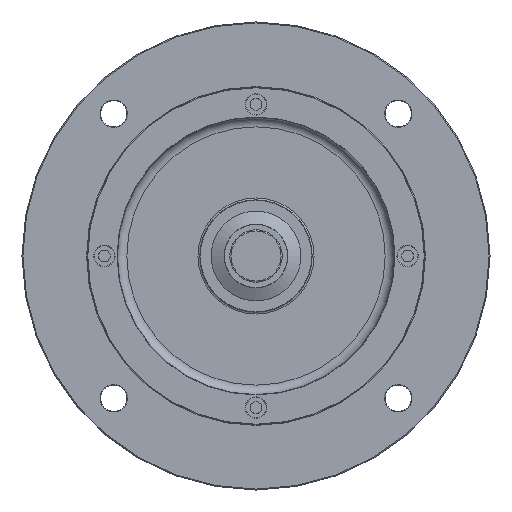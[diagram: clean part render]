
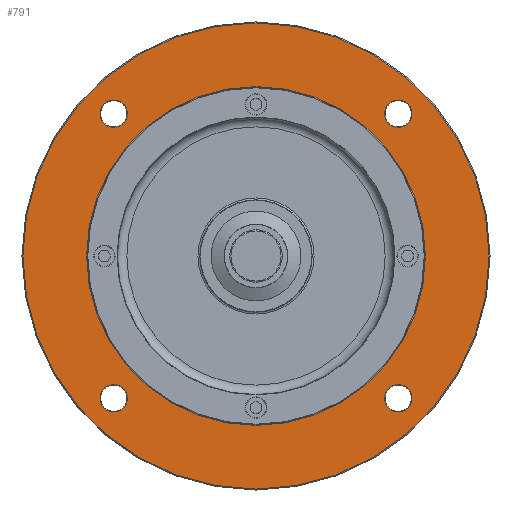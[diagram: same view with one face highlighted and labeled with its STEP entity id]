
A CAD part, front view. The second image highlights one B-rep face of the part: STEP entity #791.
In plain terms, the highlighted planar face has unit normal (0, -1, 0).
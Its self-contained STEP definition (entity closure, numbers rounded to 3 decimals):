
#791=ADVANCED_FACE('',(#1367,#1368,#1369,#1370,#1371,#1167),#1088,.T.);
#1088=PLANE('',#4407);
#1167=FACE_OUTER_BOUND('',#1710,.T.);
#1367=FACE_BOUND('',#1705,.T.);
#1368=FACE_BOUND('',#1706,.T.);
#1369=FACE_BOUND('',#1707,.T.);
#1370=FACE_BOUND('',#1708,.T.);
#1371=FACE_BOUND('',#1709,.T.);
#1705=EDGE_LOOP('',(#2238));
#1706=EDGE_LOOP('',(#2239));
#1707=EDGE_LOOP('',(#2240));
#1708=EDGE_LOOP('',(#2241));
#1709=EDGE_LOOP('',(#2242));
#1710=EDGE_LOOP('',(#2243));
#2238=ORIENTED_EDGE('',*,*,#3570,.T.);
#2239=ORIENTED_EDGE('',*,*,#3571,.T.);
#2240=ORIENTED_EDGE('',*,*,#3572,.T.);
#2241=ORIENTED_EDGE('',*,*,#3573,.T.);
#2242=ORIENTED_EDGE('',*,*,#3574,.T.);
#2243=ORIENTED_EDGE('',*,*,#3575,.T.);
#3184=VERTEX_POINT('',#6520);
#3185=VERTEX_POINT('',#6522);
#3186=VERTEX_POINT('',#6524);
#3187=VERTEX_POINT('',#6526);
#3188=VERTEX_POINT('',#6528);
#3189=VERTEX_POINT('',#6530);
#3570=EDGE_CURVE('',#3184,#3184,#4043,.T.);
#3571=EDGE_CURVE('',#3185,#3185,#4044,.T.);
#3572=EDGE_CURVE('',#3186,#3186,#4045,.T.);
#3573=EDGE_CURVE('',#3187,#3187,#4046,.T.);
#3574=EDGE_CURVE('',#3188,#3188,#4047,.T.);
#3575=EDGE_CURVE('',#3189,#3189,#4048,.T.);
#4043=CIRCLE('',#4401,90.5);
#4044=CIRCLE('',#4402,7.3);
#4045=CIRCLE('',#4403,7.3);
#4046=CIRCLE('',#4404,7.3);
#4047=CIRCLE('',#4405,7.3);
#4048=CIRCLE('',#4406,124.5);
#4401=AXIS2_PLACEMENT_3D('',#6519,#5075,#5076);
#4402=AXIS2_PLACEMENT_3D('',#6521,#5077,#5078);
#4403=AXIS2_PLACEMENT_3D('',#6523,#5079,#5080);
#4404=AXIS2_PLACEMENT_3D('',#6525,#5081,#5082);
#4405=AXIS2_PLACEMENT_3D('',#6527,#5083,#5084);
#4406=AXIS2_PLACEMENT_3D('',#6529,#5085,#5086);
#4407=AXIS2_PLACEMENT_3D('',#6531,#5087,#5088);
#5075=DIRECTION('',(0.,1.,0.));
#5076=DIRECTION('',(0.,0.,-1.));
#5077=DIRECTION('',(0.,1.,0.));
#5078=DIRECTION('',(0.,0.,-1.));
#5079=DIRECTION('',(0.,1.,0.));
#5080=DIRECTION('',(0.,0.,-1.));
#5081=DIRECTION('',(0.,1.,0.));
#5082=DIRECTION('',(0.,0.,-1.));
#5083=DIRECTION('',(0.,1.,0.));
#5084=DIRECTION('',(0.,0.,-1.));
#5085=DIRECTION('',(0.,-1.,0.));
#5086=DIRECTION('',(0.,0.,-1.));
#5087=DIRECTION('',(0.,-1.,0.));
#5088=DIRECTION('',(0.,0.,-1.));
#6519=CARTESIAN_POINT('',(0.,0.,0.));
#6520=CARTESIAN_POINT('',(0.,0.,-90.5));
#6521=CARTESIAN_POINT('',(76.014,0.,76.014));
#6522=CARTESIAN_POINT('',(76.014,0.,68.714));
#6523=CARTESIAN_POINT('',(76.014,0.,-76.014));
#6524=CARTESIAN_POINT('',(76.014,0.,-83.314));
#6525=CARTESIAN_POINT('',(-76.014,0.,-76.014));
#6526=CARTESIAN_POINT('',(-76.014,0.,-83.314));
#6527=CARTESIAN_POINT('',(-76.014,0.,76.014));
#6528=CARTESIAN_POINT('',(-76.014,0.,68.714));
#6529=CARTESIAN_POINT('',(0.,0.,0.));
#6530=CARTESIAN_POINT('',(0.,0.,-124.5));
#6531=CARTESIAN_POINT('',(0.,0.,0.));
